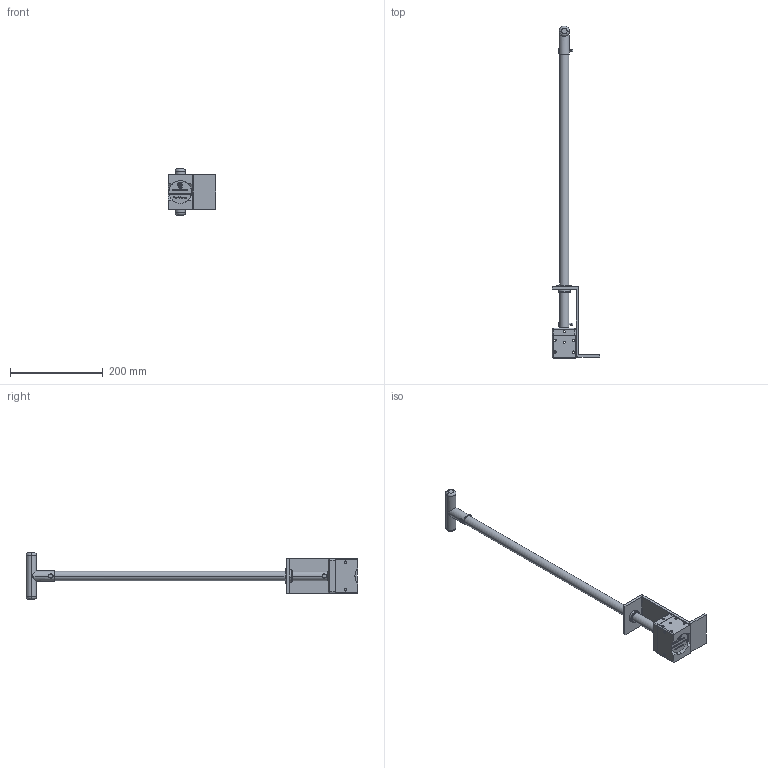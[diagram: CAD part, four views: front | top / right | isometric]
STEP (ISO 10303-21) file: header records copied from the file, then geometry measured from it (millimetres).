
FILE_DESCRIPTION (( 'STEP AP203' ), '1' );
FILE_NAME ('8000025_p.STEP', '2020-03-03T21:41:49', ( '' ), ( '' ), 'SwSTEP 2.0', 'SolidWorks 2018', '' );
FILE_SCHEMA (( 'CONFIG_CONTROL_DESIGN' ));
Length unit declared in the file: millimetre
Products named in the file (1): 8000025_p
Bounding box: 102.3 x 716.5 x 100 mm (x, y, z)
Surface area: 117813.7 mm2 (no closed solid volume)
Topology: 0 solids, 47 shells, 246 faces, 1537 edges, 1312 vertices
Faces by surface type: plane 101, cylinder 77, cone 33, torus 14, bspline 13, sphere 8
Entity records: 19615 total; most frequent: CARTESIAN_POINT 8936, ORIENTED_EDGE 1898, DIRECTION 1811, EDGE_CURVE 1523, VERTEX_POINT 1306, LINE 735, VECTOR 735, AXIS2_PLACEMENT_3D 538
